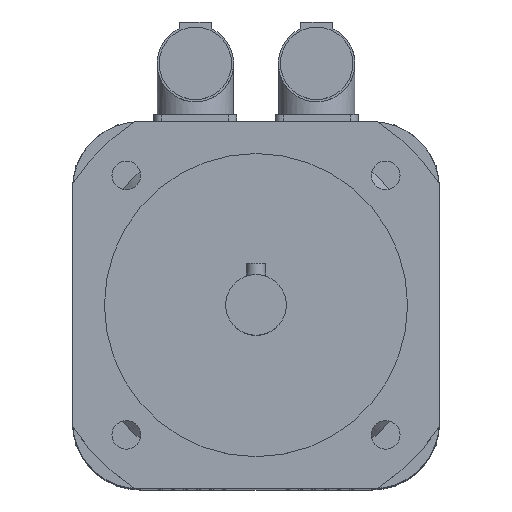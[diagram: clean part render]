
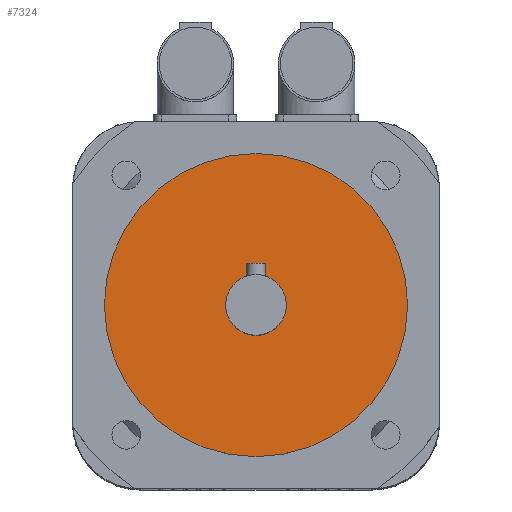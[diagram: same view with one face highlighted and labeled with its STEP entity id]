
A CAD part, top view. The second image highlights one B-rep face of the part: STEP entity #7324.
In plain terms, the highlighted planar face has unit normal (0, 0, 1).
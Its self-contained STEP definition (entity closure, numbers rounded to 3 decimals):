
#60=FACE_BOUND('',#993,.T.);
#151=CIRCLE('',#7810,9.5);
#152=CIRCLE('',#7812,47.5);
#524=FACE_OUTER_BOUND('',#992,.T.);
#992=EDGE_LOOP('',(#5019));
#993=EDGE_LOOP('',(#5020));
#3155=VERTEX_POINT('',#11148);
#3156=VERTEX_POINT('',#11151);
#3882=EDGE_CURVE('',#3155,#3155,#151,.T.);
#3883=EDGE_CURVE('',#3156,#3156,#152,.T.);
#5019=ORIENTED_EDGE('',*,*,#3883,.F.);
#5020=ORIENTED_EDGE('',*,*,#3882,.T.);
#6956=PLANE('',#7811);
#7324=ADVANCED_FACE('',(#524,#60),#6956,.T.);
#7810=AXIS2_PLACEMENT_3D('',#11149,#8756,#8757);
#7811=AXIS2_PLACEMENT_3D('',#11150,#8758,#8759);
#7812=AXIS2_PLACEMENT_3D('',#11152,#8760,#8761);
#8756=DIRECTION('center_axis',(0.,0.,-1.));
#8757=DIRECTION('ref_axis',(1.,0.,0.));
#8758=DIRECTION('center_axis',(0.,0.,1.));
#8759=DIRECTION('ref_axis',(1.,0.,0.));
#8760=DIRECTION('center_axis',(0.,0.,-1.));
#8761=DIRECTION('ref_axis',(1.,0.,0.));
#11148=CARTESIAN_POINT('',(0.,9.5,183.));
#11149=CARTESIAN_POINT('Origin',(0.,0.,183.));
#11150=CARTESIAN_POINT('Origin',(0.,47.5,183.));
#11151=CARTESIAN_POINT('',(0.,47.5,183.));
#11152=CARTESIAN_POINT('Origin',(0.,0.,183.));
